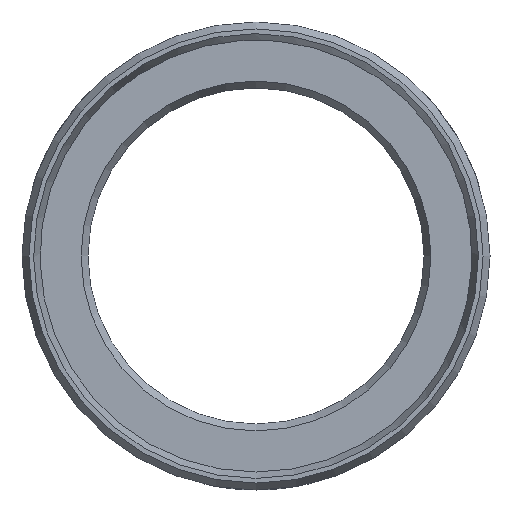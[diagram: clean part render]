
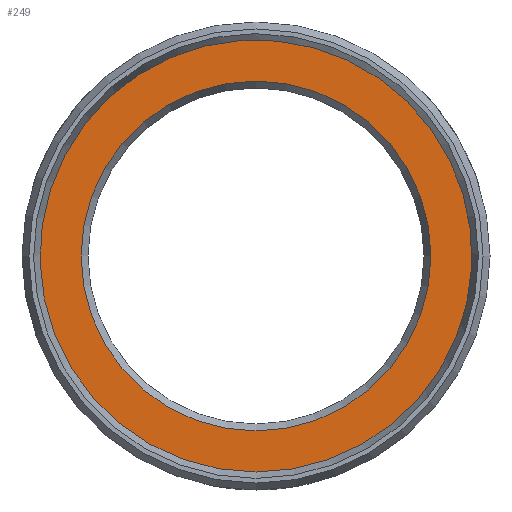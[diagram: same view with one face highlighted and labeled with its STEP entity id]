
A CAD part, left-side view. The second image highlights one B-rep face of the part: STEP entity #249.
In plain terms, the highlighted planar face has unit normal (-1, 0, 0).
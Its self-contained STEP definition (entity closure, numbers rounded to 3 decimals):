
#106=PLANE('',#985);
#249=ADVANCED_FACE('',(#309,#310),#106,.T.);
#309=FACE_BOUND('',#364,.T.);
#310=FACE_BOUND('',#365,.T.);
#364=EDGE_LOOP('',(#571));
#365=EDGE_LOOP('',(#572));
#571=ORIENTED_EDGE('',*,*,#816,.T.);
#572=ORIENTED_EDGE('',*,*,#815,.F.);
#701=VERTEX_POINT('',#1611);
#702=VERTEX_POINT('',#1614);
#815=EDGE_CURVE('',#701,#701,#881,.T.);
#816=EDGE_CURVE('',#702,#702,#882,.T.);
#881=CIRCLE('',#982,18.);
#882=CIRCLE('',#984,14.577);
#982=AXIS2_PLACEMENT_3D('',#1610,#1195,#1196);
#984=AXIS2_PLACEMENT_3D('',#1613,#1199,#1200);
#985=AXIS2_PLACEMENT_3D('',#1615,#1201,#1202);
#1195=DIRECTION('',(1.,0.,0.));
#1196=DIRECTION('',(0.,0.,-1.));
#1199=DIRECTION('',(1.,0.,0.));
#1200=DIRECTION('',(0.,0.,1.));
#1201=DIRECTION('',(-1.,0.,0.));
#1202=DIRECTION('',(0.,0.,1.));
#1610=CARTESIAN_POINT('',(0.,0.,0.));
#1611=CARTESIAN_POINT('',(0.,0.,-18.));
#1613=CARTESIAN_POINT('',(0.,0.,0.));
#1614=CARTESIAN_POINT('',(0.,0.,14.577));
#1615=CARTESIAN_POINT('',(0.,18.,0.));
